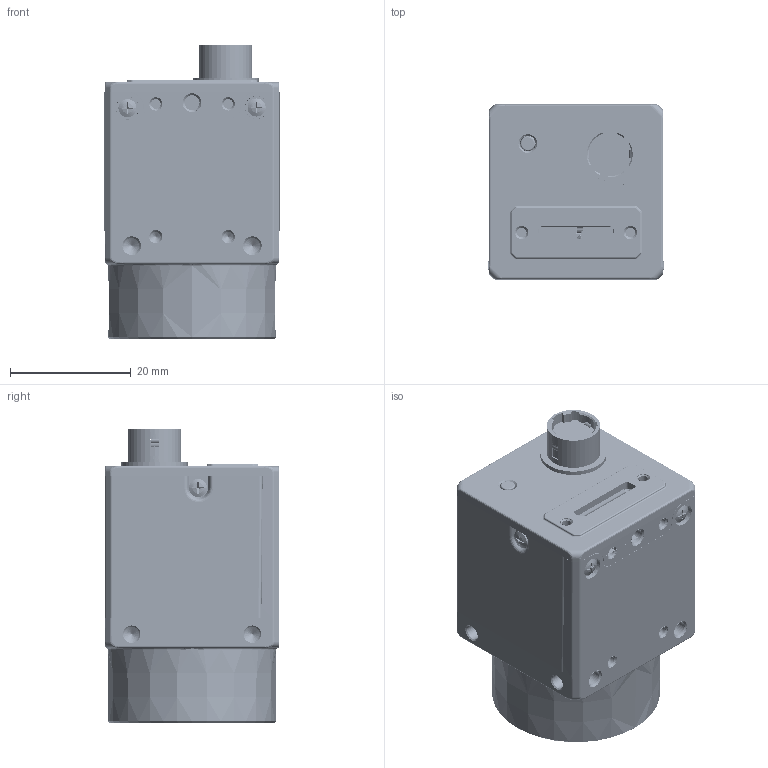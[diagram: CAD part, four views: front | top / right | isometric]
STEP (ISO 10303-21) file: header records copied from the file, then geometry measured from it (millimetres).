
FILE_DESCRIPTION((''),'2;1');
FILE_NAME('MV-CS050-60UMUC','2025-05-27T15:59:40',('zhangqianwen8'),(''),'CREO PARAMETRIC BY PTC INC, 2020044','CREO PARAMETRIC BY PTC INC, 2020044','');
FILE_SCHEMA(('CONFIG_CONTROL_DESIGN'));
Products named in the file (1): MV-CS050-60UMUC
Bounding box: 29.03 x 29 x 48.81 mm (x, y, z)
Volume: 2481.2 mm3; surface area: 37969.8 mm2
Topology: 10 solids, 117 shells, 13999 faces, 39143 edges, 25137 vertices
Faces by surface type: plane 7956, cylinder 4273, bspline 690, sphere 372, torus 338, cone 275, extrusion 95
Entity records: 505785 total; most frequent: CARTESIAN_POINT 150290, ORIENTED_EDGE 76462, DIRECTION 69824, EDGE_CURVE 39081, VECTOR 25348, LINE 25253, VERTEX_POINT 25135, AXIS2_PLACEMENT_3D 22238
